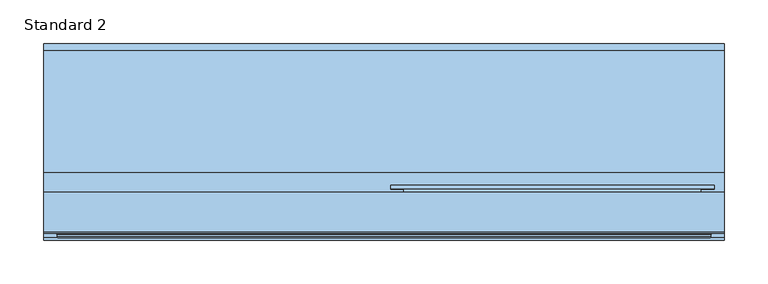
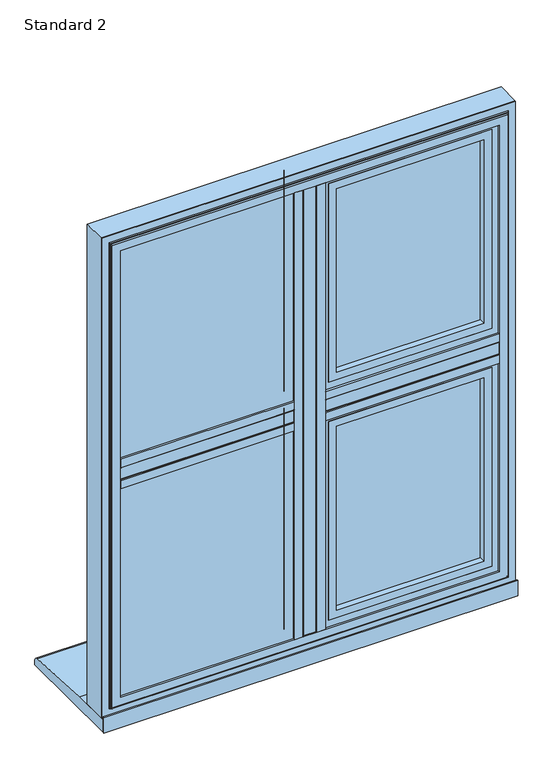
"""IFC4 building model written with IfcOpenShell, lengths in millimetres: window geometry, SMARTS_AlithermHeritage : Standard 2."""

from ifc_helpers import new_model, si_unit, point, frame, frame_2d, origin, place, context, project, spatial, polyline, circle_curve, ellipse_curve, trimmed, segment, composite_curve, outline, extrude, faceted_brep, source, transform, mapped, element, save
from ifc_brep_helpers import plane_surface, cylinder_surface, revolved_surface, advanced_brep


def standard_2_fe74481d(model_context):
    return source(origin(), model_context, "Body", "SolidModel", [
        extrude(outline(polyline([(-13.6941456, 95.2798432), (13.6941456, 95.2798432), (13.6941456, 47.279476), (-13.6941456, 47.279476), (-13.6941456, 95.2798432)])), frame((0.0, 0.0, 652.6941456), z_axis=(0.0, 0.0, 1.0), x_axis=(1.0, 0.0, 0.0)), (0.0, 0.0, 1.0), 919.6117089),
        extrude(outline(composite_curve([segment(polyline([(-29.0, 47.279476), (29.0, 47.279476), (29.0, 43.2798432), (13.0, 43.2798432)]), True, "CONTINUOUS"), segment(trimmed(circle_curve(frame_2d((13.0, 44.2798432)), 1.0), [point((13.0, 43.2798432))], [point((12.0, 44.2798432))], False, "CARTESIAN"), True, "CONTINUOUS"), segment(polyline([(12.0, 44.2798432), (12.0, 45.7798432), (-12.0, 45.7798432), (-12.0, 44.2798432)]), True, "CONTINUOUS"), segment(trimmed(circle_curve(frame_2d((-13.0, 44.2798432)), 1.0), [point((-12.0, 44.2798432))], [point((-13.0, 43.2798432))], False, "CARTESIAN"), True, "CONTINUOUS"), segment(polyline([(-13.0, 43.2798432), (-29.0, 43.2798432), (-29.0, 47.279476)]), True, "CONTINUOUS")], self_intersect=False)), frame((0.0, 0.0, 668.0), z_axis=(0.0, 0.0, 1.0), x_axis=(1.0, 0.0, 0.0)), (0.0, 0.0, 1.0), 889.0),
        extrude(outline(polyline([(-13.6941456, 95.2798432), (-13.6941456, 47.279476), (-372.3058544, 47.279476), (-372.3058544, 95.2798432), (-13.6941456, 95.2798432)])), frame((0.0, 0.0, 1098.8058544), z_axis=(0.0, 0.0, 1.0), x_axis=(1.0, 0.0, 0.0)), (0.0, 0.0, 1.0), 27.3882911),
        extrude(outline(composite_curve([segment(polyline([(47.279476, 1083.5), (43.2798432, 1083.5), (43.2798432, 1099.5)]), True, "CONTINUOUS"), segment(trimmed(circle_curve(frame_2d((44.2798432, 1099.5)), 1.0), [point((43.2798432, 1099.5))], [point((44.2798432, 1100.5))], False, "CARTESIAN"), True, "CONTINUOUS"), segment(polyline([(44.2798432, 1100.5), (45.7798432, 1100.5), (45.7798432, 1124.5), (44.2798432, 1124.5)]), True, "CONTINUOUS"), segment(trimmed(circle_curve(frame_2d((44.2798432, 1125.5)), 1.0), [point((44.2798432, 1124.5))], [point((43.2798432, 1125.5))], False, "CARTESIAN"), True, "CONTINUOUS"), segment(polyline([(43.2798432, 1125.5), (43.2798432, 1141.5), (47.279476, 1141.5), (47.279476, 1083.5)]), True, "CONTINUOUS")], self_intersect=False)), frame((-357.0, 0.0, 0.0), z_axis=(1.0, 0.0, 0.0), x_axis=(0.0, 1.0, 0.0)), (0.0, 0.0, 1.0), 328.0),
        extrude(outline(polyline([(372.3058544, 95.2798432), (372.3058544, 47.279476), (13.6941456, 47.279476), (13.6941456, 95.2798432), (372.3058544, 95.2798432)])), frame((0.0, 0.0, 1098.8058544), z_axis=(0.0, 0.0, 1.0), x_axis=(1.0, 0.0, 0.0)), (0.0, 0.0, 1.0), 27.3882911),
        extrude(outline(composite_curve([segment(polyline([(47.279476, 1083.5), (43.2798432, 1083.5), (43.2798432, 1099.5)]), True, "CONTINUOUS"), segment(trimmed(circle_curve(frame_2d((44.2798432, 1099.5)), 1.0), [point((43.2798432, 1099.5))], [point((44.2798432, 1100.5))], False, "CARTESIAN"), True, "CONTINUOUS"), segment(polyline([(44.2798432, 1100.5), (45.7798432, 1100.5), (45.7798432, 1124.5), (44.2798432, 1124.5)]), True, "CONTINUOUS"), segment(trimmed(circle_curve(frame_2d((44.2798432, 1125.5)), 1.0), [point((44.2798432, 1124.5))], [point((43.2798432, 1125.5))], False, "CARTESIAN"), True, "CONTINUOUS"), segment(polyline([(43.2798432, 1125.5), (43.2798432, 1141.5), (47.279476, 1141.5), (47.279476, 1083.5)]), True, "CONTINUOUS")], self_intersect=False)), frame((29.0, 0.0, 0.0), z_axis=(1.0, 0.0, 0.0), x_axis=(0.0, 1.0, 0.0)), (0.0, 0.0, 1.0), 328.0),
        extrude(outline(polyline([(-367.0, 75.2798432), (-19.0, 75.2798432), (-19.0, 71.2798432), (-367.0, 71.2798432), (-367.0, 75.2798432)])), frame((0.0, 0.0, 658.0), z_axis=(0.0, 0.0, 1.0), x_axis=(1.0, 0.0, 0.0)), (0.0, 0.0, 1.0), 435.5),
        extrude(outline(polyline([(-367.0, 55.2798432), (-19.0, 55.2798432), (-19.0, 51.2798432), (-367.0, 51.2798432), (-367.0, 55.2798432)])), frame((0.0, 0.0, 658.0), z_axis=(0.0, 0.0, 1.0), x_axis=(1.0, 0.0, 0.0)), (0.0, 0.0, 1.0), 435.5),
        extrude(outline(polyline([(1093.5, -367.0), (658.0, -367.0), (658.0, -19.0), (1093.5, -19.0), (1093.5, -367.0)]), holes=[polyline([(1083.5, -29.0), (668.0, -29.0), (668.0, -357.0), (1083.5, -357.0), (1083.5, -29.0)])]), frame((0.0, 55.2798432, 0.0), z_axis=(0.0, 1.0, 0.0), x_axis=(0.0, 0.0, 1.0)), (0.0, 0.0, 1.0), 16.0),
        faceted_brep([(-19.1851151, 95.2798432, 1093.3148849), (-29.0, 78.2798098, 1083.5), (-357.0, 78.2798098, 1083.5), (-366.8148849, 95.2798432, 1093.3148849), (-13.6297324, 78.2798098, 1098.8702676), (-13.6297324, 95.2798432, 1098.8702676), (-372.3702676, 95.2798432, 1098.8702676), (-372.3702676, 78.2798098, 1098.8702676), (-372.3702676, 78.2798098, 652.6297324), (-372.3702676, 95.2798432, 652.6297324), (-13.6297324, 95.2798432, 652.6297324), (-13.6297324, 78.2798098, 652.6297324), (-366.8148849, 95.2798432, 658.1851151), (-19.1851151, 95.2798432, 658.1851151), (-29.0, 78.2798098, 668.0), (-357.0, 78.2798098, 668.0)], [[[0, 1, 2, 3]], [[4, 5, 6, 7]], [[8, 9, 10, 11]], [[5, 10, 9, 6], [3, 12, 13, 0]], [[7, 8, 11, 4], [1, 14, 15, 2]], [[3, 2, 15, 12]], [[7, 6, 9, 8]], [[12, 15, 14, 13]], [[13, 14, 1, 0]], [[11, 10, 5, 4]]]),
        extrude(outline(polyline([(-367.0, 75.2798432), (-19.0, 75.2798432), (-19.0, 71.2798432), (-367.0, 71.2798432), (-367.0, 75.2798432)])), frame((0.0, 0.0, 1131.5), z_axis=(0.0, 0.0, 1.0), x_axis=(1.0, 0.0, 0.0)), (0.0, 0.0, 1.0), 435.5),
        extrude(outline(polyline([(-367.0, 55.2798432), (-19.0, 55.2798432), (-19.0, 51.2798432), (-367.0, 51.2798432), (-367.0, 55.2798432)])), frame((0.0, 0.0, 1131.5), z_axis=(0.0, 0.0, 1.0), x_axis=(1.0, 0.0, 0.0)), (0.0, 0.0, 1.0), 435.5),
        extrude(outline(polyline([(1567.0, -367.0), (1131.5, -367.0), (1131.5, -19.0), (1567.0, -19.0), (1567.0, -367.0)]), holes=[polyline([(1557.0, -29.0), (1141.5, -29.0), (1141.5, -357.0), (1557.0, -357.0), (1557.0, -29.0)])]), frame((0.0, 55.2798432, 0.0), z_axis=(0.0, 1.0, 0.0), x_axis=(0.0, 0.0, 1.0)), (0.0, 0.0, 1.0), 16.0),
        faceted_brep([(-19.1851151, 95.2798432, 1566.8148849), (-29.0, 78.2798098, 1557.0), (-357.0, 78.2798098, 1557.0), (-366.8148849, 95.2798432, 1566.8148849), (-13.6297324, 78.2798098, 1572.3702676), (-13.6297324, 95.2798432, 1572.3702676), (-372.3702676, 95.2798432, 1572.3702676), (-372.3702676, 78.2798098, 1572.3702676), (-372.3702676, 78.2798098, 1126.1297324), (-372.3702676, 95.2798432, 1126.1297324), (-13.6297324, 95.2798432, 1126.1297324), (-13.6297324, 78.2798098, 1126.1297324), (-366.8148849, 95.2798432, 1131.6851151), (-19.1851151, 95.2798432, 1131.6851151), (-29.0, 78.2798098, 1141.5), (-357.0, 78.2798098, 1141.5)], [[[0, 1, 2, 3]], [[4, 5, 6, 7]], [[8, 9, 10, 11]], [[5, 10, 9, 6], [3, 12, 13, 0]], [[7, 8, 11, 4], [1, 14, 15, 2]], [[3, 2, 15, 12]], [[7, 6, 9, 8]], [[12, 15, 14, 13]], [[13, 14, 1, 0]], [[11, 10, 5, 4]]]),
        extrude(outline(polyline([(42.5, 89.2798432), (343.5, 89.2798432), (343.5, 85.2798432), (42.5, 85.2798432), (42.5, 89.2798432)])), frame((0.0, 0.0, 681.5), z_axis=(0.0, 0.0, 1.0), x_axis=(1.0, 0.0, 0.0)), (0.0, 0.0, 1.0), 388.5),
        extrude(outline(polyline([(42.5, 69.2798432), (343.5, 69.2798432), (343.5, 65.2798432), (42.5, 65.2798432), (42.5, 69.2798432)])), frame((0.0, 0.0, 681.5), z_axis=(0.0, 0.0, 1.0), x_axis=(1.0, 0.0, 0.0)), (0.0, 0.0, 1.0), 388.5),
        extrude(outline(polyline([(1070.0, 42.5), (681.5, 42.5), (681.5, 343.5), (1070.0, 343.5), (1070.0, 42.5)]), holes=[polyline([(1060.0, 333.5), (691.5, 333.5), (691.5, 52.5), (1060.0, 52.5), (1060.0, 333.5)])]), frame((0.0, 69.2798432, 0.0), z_axis=(0.0, 1.0, 0.0), x_axis=(0.0, 0.0, 1.0)), (0.0, 0.0, 1.0), 16.0),
        extrude(outline(polyline([(1073.5052956, 38.9947044), (677.9947044, 38.9947044), (677.9947044, 347.0052956), (1073.5052956, 347.0052956), (1073.5052956, 38.9947044)]), holes=[polyline([(1058.5, 332.0), (693.0, 332.0), (693.0, 54.0), (1058.5, 54.0), (1058.5, 332.0)])]), frame((0.0, 51.2798432, 0.0), z_axis=(0.0, 1.0, 0.0), x_axis=(0.0, 0.0, 1.0)), (0.0, 0.0, 1.0), 11.3),
        extrude(outline(polyline([(662.3548042, 23.3548042), (662.3548042, 362.6451958), (1089.1451958, 362.6451958), (1089.1451958, 23.3548042), (662.3548042, 23.3548042)]), holes=[polyline([(1073.5, 39.0), (1073.5, 347.0), (678.0, 347.0), (678.0, 39.0), (1073.5, 39.0)])]), frame((0.0, 51.2798432, 0.0), z_axis=(0.0, 1.0, 0.0), x_axis=(0.0, 0.0, 1.0)), (0.0, 0.0, 1.0), 41.6),
        advanced_brep(
        [(54.0, 98.0798432, 1058.5), (54.0, 92.8798432, 1058.5), (54.0, 92.8798432, 693.0), (54.0, 98.0798432, 693.0), (332.0, 92.8798432, 693.0), (332.0, 98.0798432, 693.0), (332.0, 92.8798432, 1058.5), (332.0, 98.0798432, 1058.5), (7.8, 99.2798432, 1104.7), (7.8, 103.2798432, 1104.7), (7.8, 103.2798432, 646.8), (7.8, 99.2798432, 646.8), (378.2, 103.2798432, 646.8), (378.2, 99.2798432, 646.8), (378.2, 103.2798432, 1104.7), (378.2, 99.2798432, 1104.7), (22.8532343, 99.2798432, 1089.6467657), (363.1467657, 99.2798432, 1089.6467657), (363.1467657, 99.2798432, 661.8532343), (22.8532343, 99.2798432, 661.8532343), (36.8, 103.2798432, 675.8), (349.2, 103.2798432, 675.8), (349.2, 103.2798432, 1075.7), (36.8, 103.2798432, 1075.7), (22.8532343, 92.8798432, 1089.6467657), (22.8532343, 92.8798432, 661.8532343), (363.1467657, 92.8798432, 661.8532343), (363.1467657, 92.8798432, 1089.6467657), (38.8, 101.2798432, 1073.7), (38.8, 100.0798432, 1073.7), (38.8, 100.0798432, 677.8), (38.8, 101.2798432, 677.8), (40.8, 98.0798432, 1071.7), (40.8, 98.0798432, 679.8), (347.2, 100.0798432, 677.8), (347.2, 101.2798432, 677.8), (345.2, 98.0798432, 679.8), (347.2, 100.0798432, 1073.7), (347.2, 101.2798432, 1073.7), (345.2, 98.0798432, 1071.7)],
        [
            (0, 1),
            (1, 2),
            (2, 3),
            (3, 0),
            (2, 4),
            (4, 5),
            (5, 3),
            (4, 6),
            (6, 7),
            (7, 5),
            (6, 1),
            (0, 7),
            (8, 9),
            (9, 10),
            (10, 11),
            (11, 8),
            (10, 12),
            (12, 13),
            (13, 11),
            (12, 14),
            (14, 15),
            (15, 13),
            (15, 8),
            (16, 17),
            (17, 18),
            (18, 19),
            (19, 16),
            (14, 9),
            (20, 21),
            (21, 22),
            (22, 23),
            (23, 20),
            (24, 16),
            (19, 25),
            (25, 24),
            (18, 26),
            (26, 25),
            (17, 27),
            (27, 26),
            (27, 24),
            (28, 29),
            (29, 30),
            (30, 31),
            (31, 28),
            (29, 32, ellipse_curve(frame((40.8, 100.0798432, 1071.7), z_axis=(0.7071067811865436, 0.0, 0.7071067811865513), x_axis=(0.7071067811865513, 0.0, -0.7071067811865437)), 2.8284271, 2.0)),
            (32, 33),
            (33, 30, ellipse_curve(frame((40.8, 100.0798432, 679.8), z_axis=(0.7071067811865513, 0.0, -0.7071067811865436), x_axis=(-0.7071067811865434, 0.0, -0.7071067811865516)), 2.8284271, 2.0)),
            (30, 34),
            (34, 35),
            (35, 31),
            (33, 36),
            (36, 34, ellipse_curve(frame((345.2, 100.0798432, 679.8), z_axis=(0.7071067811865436, 0.0, 0.7071067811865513), x_axis=(0.7071067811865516, 0.0, -0.7071067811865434)), 2.8284271, 2.0)),
            (34, 37),
            (37, 38),
            (38, 35),
            (36, 39),
            (39, 37, ellipse_curve(frame((345.2, 100.0798432, 1071.7), z_axis=(-0.7071067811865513, 0.0, 0.7071067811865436), x_axis=(0.7071067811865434, 0.0, 0.7071067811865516)), 2.8284271, 2.0)),
            (32, 39),
            (37, 29),
            (28, 38),
            (23, 28, ellipse_curve(frame((36.8, 101.2798432, 1075.7), z_axis=(-0.7071067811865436, 0.0, -0.7071067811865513), x_axis=(-0.7071067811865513, 0.0, 0.7071067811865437)), 2.8284271, 2.0)),
            (31, 20, ellipse_curve(frame((36.8, 101.2798432, 675.8), z_axis=(-0.7071067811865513, 0.0, 0.7071067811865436), x_axis=(0.7071067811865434, 0.0, 0.7071067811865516)), 2.8284271, 2.0)),
            (35, 21, ellipse_curve(frame((349.2, 101.2798432, 675.8), z_axis=(-0.7071067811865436, 0.0, -0.7071067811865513), x_axis=(-0.7071067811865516, 0.0, 0.7071067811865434)), 2.8284271, 2.0)),
            (38, 22, ellipse_curve(frame((349.2, 101.2798432, 1075.7), z_axis=(0.7071067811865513, 0.0, -0.7071067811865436), x_axis=(-0.7071067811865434, 0.0, -0.7071067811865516)), 2.8284271, 2.0)),
        ],
        [
            plane_surface(frame((54.0, 92.8798432, 1058.5), z_axis=(1.0, 0.0, 0.0), x_axis=(0.0, 0.0, -1.0))),
            plane_surface(frame((54.0, 92.8798432, 693.0), z_axis=(0.0, 0.0, 1.0), x_axis=(1.0, 0.0, 0.0))),
            plane_surface(frame((332.0, 92.8798432, 693.0), z_axis=(-1.0, 0.0, 0.0), x_axis=(0.0, 0.0, 1.0))),
            plane_surface(frame((332.0, 92.8798432, 1058.5), z_axis=(0.0, 0.0, -1.0), x_axis=(-1.0, 0.0, 0.0))),
            plane_surface(frame((7.8, 103.2798432, 1104.7), z_axis=(-1.0, 0.0, 0.0), x_axis=(0.0, 0.0, -1.0))),
            plane_surface(frame((7.8, 103.2798432, 646.8), z_axis=(0.0, 0.0, -1.0), x_axis=(1.0, 0.0, 0.0))),
            plane_surface(frame((378.2, 103.2798432, 646.8), z_axis=(1.0, 0.0, 0.0), x_axis=(0.0, 0.0, 1.0))),
            plane_surface(frame((378.2, 99.2798432, 1104.7), z_axis=(0.0, -1.0, 0.0), x_axis=(-1.0, 0.0, 0.0))),
            plane_surface(frame((378.2, 103.2798432, 1104.7), z_axis=(0.0, 0.0, 1.0), x_axis=(-1.0, 0.0, 0.0))),
            plane_surface(frame((349.2, 103.2798432, 1075.7), z_axis=(0.0, 1.0, 0.0), x_axis=(-1.0, 0.0, 0.0))),
            plane_surface(frame((22.8532343, 99.2798432, 1089.6467657), z_axis=(-1.0, 0.0, 0.0), x_axis=(0.0, 0.0, -1.0))),
            plane_surface(frame((22.8532343, 99.2798432, 661.8532343), z_axis=(0.0, 0.0, -1.0), x_axis=(1.0, 0.0, 0.0))),
            plane_surface(frame((363.1467657, 99.2798432, 661.8532343), z_axis=(1.0, 0.0, 0.0), x_axis=(0.0, 0.0, 1.0))),
            plane_surface(frame((363.1467657, 92.8798432, 1089.6467657), z_axis=(0.0, -1.0, 0.0), x_axis=(-1.0, 0.0, 0.0))),
            plane_surface(frame((363.1467657, 99.2798432, 1089.6467657), z_axis=(0.0, 0.0, 1.0), x_axis=(-1.0, 0.0, 0.0))),
            plane_surface(frame((38.8, 100.0798432, 1073.7), z_axis=(1.0, 0.0, 0.0), x_axis=(0.0, 0.0, -1.0))),
            revolved_surface(polyline([(38.8, 100.0798432, 677.8), (38.8, 100.0798432, 1073.7)]), (40.8, 100.0798432, 1083.5), (0.0, 0.0, -1.0)),
            plane_surface(frame((38.8, 100.0798432, 677.8), z_axis=(0.0, 0.0, 1.0), x_axis=(1.0, 0.0, 0.0))),
            revolved_surface(polyline([(347.2, 100.0798432, 677.8), (38.8, 100.0798432, 677.8)]), (29.0, 100.0798432, 679.8), (1.0, 0.0, 0.0)),
            plane_surface(frame((347.2, 100.0798432, 677.8), z_axis=(-1.0, 0.0, 0.0), x_axis=(0.0, 0.0, 1.0))),
            revolved_surface(polyline([(347.2, 100.0798432, 1073.7), (347.2, 100.0798432, 677.8)]), (345.2, 100.0798432, 668.0), (0.0, 0.0, 1.0)),
            plane_surface(frame((332.0, 98.0798432, 1058.5), z_axis=(0.0, 1.0, 0.0), x_axis=(-1.0, 0.0, 0.0))),
            plane_surface(frame((347.2, 100.0798432, 1073.7), z_axis=(0.0, 0.0, -1.0), x_axis=(-1.0, 0.0, 0.0))),
            revolved_surface(polyline([(38.80000000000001, 100.0798432, 1073.7), (347.2, 100.0798432, 1073.7)]), (357.0, 100.0798432, 1071.7), (-1.0, 0.0, 0.0)),
            cylinder_surface(frame((36.8, 101.2798432, 1083.5), z_axis=(0.0, 0.0, 1.0), x_axis=(-1.0, 0.0, 0.0)), 2.0),
            cylinder_surface(frame((29.0, 101.2798432, 675.8), z_axis=(-1.0, 0.0, 0.0), x_axis=(0.0, 0.0, -1.0)), 2.0),
            cylinder_surface(frame((349.2, 101.2798432, 668.0), z_axis=(0.0, 0.0, -1.0), x_axis=(1.0, 0.0, 0.0)), 2.0),
            cylinder_surface(frame((357.0, 101.2798432, 1075.7), z_axis=(1.0, 0.0, 0.0), x_axis=(0.0, 0.0, 1.0)), 2.0),
        ],
        [
            (0, [[1, 2, 3, 4]]),
            (1, [[-3, 5, 6, 7]]),
            (2, [[-6, 8, 9, 10]]),
            (3, [[-9, 11, -1, 12]]),
            (4, [[13, 14, 15, 16]]),
            (5, [[-15, 17, 18, 19]]),
            (6, [[-18, 20, 21, 22]]),
            (7, [[-19, -22, 23, -16], [24, 25, 26, 27]]),
            (8, [[-21, 28, -13, -23]]),
            (9, [[-28, -20, -17, -14], [29, 30, 31, 32]]),
            (10, [[33, -27, 34, 35]]),
            (11, [[-34, -26, 36, 37]]),
            (12, [[-36, -25, 38, 39]]),
            (13, [[-37, -39, 40, -35], [-11, -8, -5, -2]]),
            (14, [[-38, -24, -33, -40]]),
            (15, [[41, 42, 43, 44]]),
            (16, [[45, 46, 47, -42]]),
            (17, [[-43, 48, 49, 50]]),
            (18, [[-47, 51, 52, -48]]),
            (19, [[-49, 53, 54, 55]]),
            (20, [[-52, 56, 57, -53]]),
            (21, [[58, -56, -51, -46], [-7, -10, -12, -4]]),
            (22, [[-54, 59, -41, 60]]),
            (23, [[-57, -58, -45, -59]]),
            (24, [[61, -44, 62, -32]]),
            (25, [[-62, -50, 63, -29]]),
            (26, [[-63, -55, 64, -30]]),
            (27, [[-64, -60, -61, -31]]),
        ],
    ),
        extrude(outline(polyline([(1590.0, 390.0), (1590.0, -390.0), (635.0, -390.0), (635.0, 390.0), (1590.0, 390.0)]), holes=[polyline([(652.7000182, 372.2999818), (652.7000182, -372.2999818), (1572.2999818, -372.2999818), (1572.2999818, 372.2999818), (652.7000182, 372.2999818)])]), frame((0.0, 50.279857, 0.0), z_axis=(0.0, 1.0, 0.0), x_axis=(0.0, 0.0, 1.0)), (0.0, 0.0, 1.0), 44.9999962),
        advanced_brep(
        [(357.0, 43.2798432, 1557.0), (357.0, 47.2798432, 1557.0), (357.0, 47.2798432, 668.0), (357.0, 43.2798432, 668.0), (390.0, 50.279857, 1590.0), (390.0, 48.279857, 1590.0), (390.0, 48.279857, 635.0), (390.0, 50.279857, 635.0), (372.4999818, 43.2798432, 1572.4999818), (-372.4999818, 43.2798432, 1572.4999818), (-372.4999818, 43.2798432, 652.5000182), (372.4999818, 43.2798432, 652.5000182), (-357.0, 43.2798432, 668.0), (-357.0, 43.2798432, 1557.0), (-390.0, 50.279857, 1590.0), (-390.0, 48.279857, 1590.0), (-390.0, 50.279857, 635.0), (372.2999818, 50.279857, 1572.2999818), (-372.2999818, 50.279857, 1572.2999818), (-372.2999818, 50.279857, 652.7000182), (372.2999818, 50.279857, 652.7000182), (-357.0, 47.2798432, 1557.0), (-357.0, 47.2798432, 668.0), (-390.0, 48.279857, 635.0), (-372.2999818, 47.2798432, 1572.2999818), (372.2999818, 47.2798432, 1572.2999818), (372.2999818, 47.2798432, 652.7000182), (374.4999818, 46.779857, 650.5000182), (374.4999818, 45.2798432, 650.5000182), (-374.4999818, 45.2798432, 650.5000182), (-374.4999818, 46.779857, 650.5000182), (374.4999818, 46.779857, 1574.4999818), (374.4999818, 45.2798432, 1574.4999818), (-372.2999818, 47.2798432, 652.7000182), (-374.4999818, 45.2798432, 1574.4999818), (-374.4999818, 46.779857, 1574.4999818), (375.9999818, 48.279857, 1575.9999818), (375.9999818, 48.279857, 649.0000182), (-375.9999818, 48.279857, 649.0000182), (-375.9999818, 48.279857, 1575.9999818)],
        [
            (0, 1),
            (1, 2),
            (2, 3),
            (3, 0),
            (4, 5),
            (5, 6),
            (6, 7),
            (7, 4),
            (8, 9),
            (9, 10),
            (10, 11),
            (11, 8),
            (3, 12),
            (12, 13),
            (13, 0),
            (14, 15),
            (15, 5),
            (4, 14),
            (7, 16),
            (16, 14),
            (17, 18),
            (18, 19),
            (19, 20),
            (20, 17),
            (13, 21),
            (21, 1),
            (2, 22),
            (22, 12),
            (22, 21),
            (6, 23),
            (23, 16),
            (23, 15),
            (24, 18),
            (17, 25),
            (25, 24),
            (20, 26),
            (26, 25),
            (27, 28),
            (28, 29),
            (29, 30),
            (30, 27),
            (31, 32),
            (32, 28),
            (27, 31),
            (19, 33),
            (33, 26),
            (24, 33),
            (29, 34),
            (34, 35),
            (35, 30),
            (34, 32),
            (31, 35),
            (36, 31, ellipse_curve(frame((375.9999818, 46.779857, 1575.9999818), z_axis=(-0.7071067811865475, 0.0, 0.7071067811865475), x_axis=(-0.7071067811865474, 0.0, -0.7071067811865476)), 2.1213203, 1.5)),
            (27, 37, ellipse_curve(frame((375.9999818, 46.779857, 649.0000182), z_axis=(-0.7071067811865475, 0.0, -0.7071067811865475), x_axis=(0.7071067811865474, 0.0, -0.7071067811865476)), 2.1213203, 1.5)),
            (37, 36),
            (30, 38, ellipse_curve(frame((-375.9999818, 46.779857, 649.0000182), z_axis=(-0.7071067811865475, 0.0, 0.7071067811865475), x_axis=(-0.7071067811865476, 0.0, -0.7071067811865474)), 2.1213203, 1.5)),
            (38, 37),
            (35, 39, ellipse_curve(frame((-375.9999818, 46.779857, 1575.9999818), z_axis=(0.7071067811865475, 0.0, 0.7071067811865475), x_axis=(-0.7071067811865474, 0.0, 0.7071067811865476)), 2.1213203, 1.5)),
            (39, 38),
            (36, 39),
            (32, 8, ellipse_curve(frame((372.4999818, 45.2798432, 1572.4999818), z_axis=(0.7071067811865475, 0.0, -0.7071067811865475), x_axis=(0.7071067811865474, 0.0, 0.7071067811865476)), 2.8284271, 2.0)),
            (11, 28, ellipse_curve(frame((372.4999818, 45.2798432, 652.5000182), z_axis=(0.7071067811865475, 0.0, 0.7071067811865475), x_axis=(-0.7071067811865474, 0.0, 0.7071067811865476)), 2.8284271, 2.0)),
            (10, 29, ellipse_curve(frame((-372.4999818, 45.2798432, 652.5000182), z_axis=(0.7071067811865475, 0.0, -0.7071067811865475), x_axis=(0.7071067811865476, 0.0, 0.7071067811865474)), 2.8284271, 2.0)),
            (9, 34, ellipse_curve(frame((-372.4999818, 45.2798432, 1572.4999818), z_axis=(-0.7071067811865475, 0.0, -0.7071067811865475), x_axis=(0.7071067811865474, 0.0, -0.7071067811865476)), 2.8284271, 2.0)),
        ],
        [
            plane_surface(frame((357.0, 47.2798432, 1557.0), z_axis=(-1.0, 0.0, 0.0), x_axis=(0.0, 0.0, -1.0))),
            plane_surface(frame((390.0, 48.279857, 1590.0), z_axis=(1.0, 0.0, 0.0), x_axis=(0.0, 0.0, -1.0))),
            plane_surface(frame((-357.0, 43.2798432, 1557.0), z_axis=(0.0, -1.0, 0.0), x_axis=(1.0, 0.0, 0.0))),
            plane_surface(frame((-390.0, 48.279857, 1590.0), z_axis=(0.0, 0.0, 1.0), x_axis=(1.0, 0.0, 0.0))),
            plane_surface(frame((-390.0, 50.279857, 1590.0), z_axis=(0.0, 1.0, 0.0), x_axis=(1.0, 0.0, 0.0))),
            plane_surface(frame((-357.0, 47.2798432, 1557.0), z_axis=(0.0, 0.0, -1.0), x_axis=(1.0, 0.0, 0.0))),
            plane_surface(frame((357.0, 47.2798432, 668.0), z_axis=(0.0, 0.0, 1.0), x_axis=(-1.0, 0.0, 0.0))),
            plane_surface(frame((-357.0, 47.2798432, 668.0), z_axis=(1.0, 0.0, 0.0), x_axis=(0.0, 0.0, 1.0))),
            plane_surface(frame((390.0, 48.279857, 635.0), z_axis=(0.0, 0.0, -1.0), x_axis=(-1.0, 0.0, 0.0))),
            plane_surface(frame((-390.0, 48.279857, 635.0), z_axis=(-1.0, 0.0, 0.0), x_axis=(0.0, 0.0, 1.0))),
            plane_surface(frame((-372.2999818, 50.279857, 1572.2999818), z_axis=(0.0, 0.0, -1.0), x_axis=(1.0, 0.0, 0.0))),
            plane_surface(frame((372.2999818, 50.279857, 1572.2999818), z_axis=(-1.0, 0.0, 0.0), x_axis=(0.0, 0.0, -1.0))),
            plane_surface(frame((374.4999818, 45.2798432, 650.5000182), z_axis=(0.0, 0.0, -1.0), x_axis=(-1.0, 0.0, 0.0))),
            plane_surface(frame((374.4999818, 45.2798432, 1574.4999818), z_axis=(1.0, 0.0, 0.0), x_axis=(0.0, 0.0, -1.0))),
            plane_surface(frame((372.2999818, 50.279857, 652.7000182), z_axis=(0.0, 0.0, 1.0), x_axis=(-1.0, 0.0, 0.0))),
            plane_surface(frame((-372.2999818, 50.279857, 652.7000182), z_axis=(1.0, 0.0, 0.0), x_axis=(0.0, 0.0, 1.0))),
            plane_surface(frame((-374.4999818, 45.2798432, 650.5000182), z_axis=(-1.0, 0.0, 0.0), x_axis=(0.0, 0.0, 1.0))),
            plane_surface(frame((-372.2999818, 47.2798432, 1572.2999818), z_axis=(0.0, 1.0, 0.0), x_axis=(1.0, 0.0, 0.0))),
            plane_surface(frame((-374.4999818, 45.2798432, 1574.4999818), z_axis=(0.0, 0.0, 1.0), x_axis=(1.0, 0.0, 0.0))),
            revolved_surface(polyline([(374.4999818, 46.779857, 647.5000182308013), (374.4999818, 46.779857, 1577.4999817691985)]), (375.9999818, 46.779857, 1590.0), (0.0, 0.0, -1.0)),
            revolved_surface(polyline([(-377.4999817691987, 46.779857, 650.5000182), (377.49998176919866, 46.779857, 650.5000182)]), (390.0, 46.779857, 649.0000182), (-1.0, 0.0, 0.0)),
            revolved_surface(polyline([(-374.4999818, 46.779857, 1577.4999817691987), (-374.4999818, 46.779857, 647.5000182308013)]), (-375.9999818, 46.779857, 635.0), (0.0, 0.0, 1.0)),
            revolved_surface(polyline([(377.4999817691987, 46.779857, 1574.4999818), (-377.49998176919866, 46.779857, 1574.4999818)]), (-390.0, 46.779857, 1575.9999818), (1.0, 0.0, 0.0)),
            plane_surface(frame((-375.9999818, 48.279857, 1575.9999818), z_axis=(0.0, -1.0, 0.0), x_axis=(1.0, 0.0, 0.0))),
            cylinder_surface(frame((372.4999818, 45.2798432, 1590.0), z_axis=(0.0, 0.0, 1.0), x_axis=(-1.0, 0.0, 0.0)), 2.0),
            cylinder_surface(frame((390.0, 45.2798432, 652.5000182), z_axis=(1.0, 0.0, 0.0), x_axis=(0.0, 0.0, 1.0)), 2.0),
            cylinder_surface(frame((-372.4999818, 45.2798432, 635.0), z_axis=(0.0, 0.0, -1.0), x_axis=(1.0, 0.0, 0.0)), 2.0),
            cylinder_surface(frame((-390.0, 45.2798432, 1572.4999818), z_axis=(-1.0, 0.0, 0.0), x_axis=(0.0, 0.0, -1.0)), 2.0),
        ],
        [
            (0, [[1, 2, 3, 4]]),
            (1, [[5, 6, 7, 8]]),
            (2, [[9, 10, 11, 12], [13, 14, 15, -4]]),
            (3, [[16, 17, -5, 18]]),
            (4, [[19, 20, -18, -8], [21, 22, 23, 24]]),
            (5, [[25, 26, -1, -15]]),
            (6, [[-3, 27, 28, -13]]),
            (7, [[-28, 29, -25, -14]]),
            (8, [[-7, 30, 31, -19]]),
            (9, [[-31, 32, -16, -20]]),
            (10, [[33, -21, 34, 35]]),
            (11, [[-34, -24, 36, 37]]),
            (12, [[38, 39, 40, 41]]),
            (13, [[42, 43, -38, 44]]),
            (14, [[-36, -23, 45, 46]]),
            (15, [[-45, -22, -33, 47]]),
            (16, [[-40, 48, 49, 50]]),
            (17, [[-46, -47, -35, -37], [-26, -29, -27, -2]]),
            (18, [[-49, 51, -42, 52]]),
            (19, [[53, -44, 54, 55]]),
            (20, [[-54, -41, 56, 57]]),
            (21, [[-56, -50, 58, 59]]),
            (22, [[-58, -52, -53, 60]]),
            (23, [[-17, -32, -30, -6], [-57, -59, -60, -55]]),
            (24, [[61, -12, 62, -43]]),
            (25, [[-62, -11, 63, -39]]),
            (26, [[-63, -10, 64, -48]]),
            (27, [[-64, -9, -61, -51]]),
        ],
    ),
        extrude(outline(polyline([(42.5, 89.2798432), (343.5, 89.2798432), (343.5, 85.2798432), (42.5, 85.2798432), (42.5, 89.2798432)])), frame((0.0, 0.0, 1155.0), z_axis=(0.0, 0.0, 1.0), x_axis=(1.0, 0.0, 0.0)), (0.0, 0.0, 1.0), 388.5),
        extrude(outline(polyline([(42.5, 69.2798432), (343.5, 69.2798432), (343.5, 65.2798432), (42.5, 65.2798432), (42.5, 69.2798432)])), frame((0.0, 0.0, 1155.0), z_axis=(0.0, 0.0, 1.0), x_axis=(1.0, 0.0, 0.0)), (0.0, 0.0, 1.0), 388.5),
        extrude(outline(polyline([(1543.5, 42.5), (1155.0, 42.5), (1155.0, 343.5), (1543.5, 343.5), (1543.5, 42.5)]), holes=[polyline([(1533.5, 333.5), (1165.0, 333.5), (1165.0, 52.5), (1533.5, 52.5), (1533.5, 333.5)])]), frame((0.0, 69.2798432, 0.0), z_axis=(0.0, 1.0, 0.0), x_axis=(0.0, 0.0, 1.0)), (0.0, 0.0, 1.0), 16.0),
        extrude(outline(polyline([(1547.0052956, 38.9947044), (1151.4947044, 38.9947044), (1151.4947044, 347.0052956), (1547.0052956, 347.0052956), (1547.0052956, 38.9947044)]), holes=[polyline([(1532.0, 332.0), (1166.5, 332.0), (1166.5, 54.0), (1532.0, 54.0), (1532.0, 332.0)])]), frame((0.0, 51.2798432, 0.0), z_axis=(0.0, 1.0, 0.0), x_axis=(0.0, 0.0, 1.0)), (0.0, 0.0, 1.0), 11.3),
        extrude(outline(polyline([(1135.8548042, 23.3548042), (1135.8548042, 362.6451958), (1562.6451958, 362.6451958), (1562.6451958, 23.3548042), (1135.8548042, 23.3548042)]), holes=[polyline([(1547.0, 39.0), (1547.0, 347.0), (1151.5, 347.0), (1151.5, 39.0), (1547.0, 39.0)])]), frame((0.0, 51.2798432, 0.0), z_axis=(0.0, 1.0, 0.0), x_axis=(0.0, 0.0, 1.0)), (0.0, 0.0, 1.0), 41.6),
        advanced_brep(
        [(54.0, 98.0798432, 1532.0), (54.0, 92.8798432, 1532.0), (54.0, 92.8798432, 1166.5), (54.0, 98.0798432, 1166.5), (332.0, 92.8798432, 1166.5), (332.0, 98.0798432, 1166.5), (332.0, 92.8798432, 1532.0), (332.0, 98.0798432, 1532.0), (7.8, 99.2798432, 1578.2), (7.8, 103.2798432, 1578.2), (7.8, 103.2798432, 1120.3), (7.8, 99.2798432, 1120.3), (378.2, 103.2798432, 1120.3), (378.2, 99.2798432, 1120.3), (378.2, 103.2798432, 1578.2), (378.2, 99.2798432, 1578.2), (22.8532343, 99.2798432, 1563.1467657), (363.1467657, 99.2798432, 1563.1467657), (363.1467657, 99.2798432, 1135.3532343), (22.8532343, 99.2798432, 1135.3532343), (36.8, 103.2798432, 1149.3), (349.2, 103.2798432, 1149.3), (349.2, 103.2798432, 1549.2), (36.8, 103.2798432, 1549.2), (22.8532343, 92.8798432, 1563.1467657), (22.8532343, 92.8798432, 1135.3532343), (363.1467657, 92.8798432, 1135.3532343), (363.1467657, 92.8798432, 1563.1467657), (38.8, 101.2798432, 1547.2), (38.8, 100.0798432, 1547.2), (38.8, 100.0798432, 1151.3), (38.8, 101.2798432, 1151.3), (40.8, 98.0798432, 1545.2), (40.8, 98.0798432, 1153.3), (347.2, 100.0798432, 1151.3), (347.2, 101.2798432, 1151.3), (345.2, 98.0798432, 1153.3), (347.2, 100.0798432, 1547.2), (347.2, 101.2798432, 1547.2), (345.2, 98.0798432, 1545.2)],
        [
            (0, 1),
            (1, 2),
            (2, 3),
            (3, 0),
            (2, 4),
            (4, 5),
            (5, 3),
            (4, 6),
            (6, 7),
            (7, 5),
            (6, 1),
            (0, 7),
            (8, 9),
            (9, 10),
            (10, 11),
            (11, 8),
            (10, 12),
            (12, 13),
            (13, 11),
            (12, 14),
            (14, 15),
            (15, 13),
            (15, 8),
            (16, 17),
            (17, 18),
            (18, 19),
            (19, 16),
            (14, 9),
            (20, 21),
            (21, 22),
            (22, 23),
            (23, 20),
            (24, 16),
            (19, 25),
            (25, 24),
            (18, 26),
            (26, 25),
            (17, 27),
            (27, 26),
            (27, 24),
            (28, 29),
            (29, 30),
            (30, 31),
            (31, 28),
            (29, 32, ellipse_curve(frame((40.8, 100.0798432, 1545.2), z_axis=(0.7071067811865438, 0.0, 0.7071067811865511), x_axis=(0.707106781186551, 0.0, -0.7071067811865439)), 2.8284271, 2.0)),
            (32, 33),
            (33, 30, ellipse_curve(frame((40.8, 100.0798432, 1153.3), z_axis=(0.7071067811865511, 0.0, -0.7071067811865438), x_axis=(-0.7071067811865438, 0.0, -0.7071067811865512)), 2.8284271, 2.0)),
            (30, 34),
            (34, 35),
            (35, 31),
            (33, 36),
            (36, 34, ellipse_curve(frame((345.2, 100.0798432, 1153.3), z_axis=(0.7071067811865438, 0.0, 0.7071067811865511), x_axis=(0.7071067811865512, 0.0, -0.7071067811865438)), 2.8284271, 2.0)),
            (34, 37),
            (37, 38),
            (38, 35),
            (36, 39),
            (39, 37, ellipse_curve(frame((345.2, 100.0798432, 1545.2), z_axis=(-0.7071067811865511, 0.0, 0.7071067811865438), x_axis=(0.7071067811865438, 0.0, 0.7071067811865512)), 2.8284271, 2.0)),
            (32, 39),
            (37, 29),
            (28, 38),
            (23, 28, ellipse_curve(frame((36.8, 101.2798432, 1549.2), z_axis=(-0.7071067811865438, 0.0, -0.7071067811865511), x_axis=(-0.707106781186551, 0.0, 0.7071067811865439)), 2.8284271, 2.0)),
            (31, 20, ellipse_curve(frame((36.8, 101.2798432, 1149.3), z_axis=(-0.7071067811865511, 0.0, 0.7071067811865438), x_axis=(0.7071067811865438, 0.0, 0.7071067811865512)), 2.8284271, 2.0)),
            (35, 21, ellipse_curve(frame((349.2, 101.2798432, 1149.3), z_axis=(-0.7071067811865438, 0.0, -0.7071067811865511), x_axis=(-0.7071067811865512, 0.0, 0.7071067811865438)), 2.8284271, 2.0)),
            (38, 22, ellipse_curve(frame((349.2, 101.2798432, 1549.2), z_axis=(0.7071067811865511, 0.0, -0.7071067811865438), x_axis=(-0.7071067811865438, 0.0, -0.7071067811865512)), 2.8284271, 2.0)),
        ],
        [
            plane_surface(frame((54.0, 92.8798432, 1532.0), z_axis=(1.0, 0.0, 0.0), x_axis=(0.0, 0.0, -1.0))),
            plane_surface(frame((54.0, 92.8798432, 1166.5), z_axis=(0.0, 0.0, 1.0), x_axis=(1.0, 0.0, 0.0))),
            plane_surface(frame((332.0, 92.8798432, 1166.5), z_axis=(-1.0, 0.0, 0.0), x_axis=(0.0, 0.0, 1.0))),
            plane_surface(frame((332.0, 92.8798432, 1532.0), z_axis=(0.0, 0.0, -1.0), x_axis=(-1.0, 0.0, 0.0))),
            plane_surface(frame((7.8, 103.2798432, 1578.2), z_axis=(-1.0, 0.0, 0.0), x_axis=(0.0, 0.0, -1.0))),
            plane_surface(frame((7.8, 103.2798432, 1120.3), z_axis=(0.0, 0.0, -1.0), x_axis=(1.0, 0.0, 0.0))),
            plane_surface(frame((378.2, 103.2798432, 1120.3), z_axis=(1.0, 0.0, 0.0), x_axis=(0.0, 0.0, 1.0))),
            plane_surface(frame((378.2, 99.2798432, 1578.2), z_axis=(0.0, -1.0, 0.0), x_axis=(-1.0, 0.0, 0.0))),
            plane_surface(frame((378.2, 103.2798432, 1578.2), z_axis=(0.0, 0.0, 1.0), x_axis=(-1.0, 0.0, 0.0))),
            plane_surface(frame((349.2, 103.2798432, 1549.2), z_axis=(0.0, 1.0, 0.0), x_axis=(-1.0, 0.0, 0.0))),
            plane_surface(frame((22.8532343, 99.2798432, 1563.1467657), z_axis=(-1.0, 0.0, 0.0), x_axis=(0.0, 0.0, -1.0))),
            plane_surface(frame((22.8532343, 99.2798432, 1135.3532343), z_axis=(0.0, 0.0, -1.0), x_axis=(1.0, 0.0, 0.0))),
            plane_surface(frame((363.1467657, 99.2798432, 1135.3532343), z_axis=(1.0, 0.0, 0.0), x_axis=(0.0, 0.0, 1.0))),
            plane_surface(frame((363.1467657, 92.8798432, 1563.1467657), z_axis=(0.0, -1.0, 0.0), x_axis=(-1.0, 0.0, 0.0))),
            plane_surface(frame((363.1467657, 99.2798432, 1563.1467657), z_axis=(0.0, 0.0, 1.0), x_axis=(-1.0, 0.0, 0.0))),
            plane_surface(frame((38.8, 100.0798432, 1547.2), z_axis=(1.0, 0.0, 0.0), x_axis=(0.0, 0.0, -1.0))),
            revolved_surface(polyline([(38.8, 100.0798432, 1151.3), (38.8, 100.0798432, 1547.2)]), (40.8, 100.0798432, 1557.0), (0.0, 0.0, -1.0)),
            plane_surface(frame((38.8, 100.0798432, 1151.3), z_axis=(0.0, 0.0, 1.0), x_axis=(1.0, 0.0, 0.0))),
            revolved_surface(polyline([(347.2, 100.0798432, 1151.3), (38.8, 100.0798432, 1151.3)]), (29.0, 100.0798432, 1153.3), (1.0, 0.0, 0.0)),
            plane_surface(frame((347.2, 100.0798432, 1151.3), z_axis=(-1.0, 0.0, 0.0), x_axis=(0.0, 0.0, 1.0))),
            revolved_surface(polyline([(347.2, 100.0798432, 1547.2), (347.2, 100.0798432, 1151.3)]), (345.2, 100.0798432, 1141.5), (0.0, 0.0, 1.0)),
            plane_surface(frame((332.0, 98.0798432, 1532.0), z_axis=(0.0, 1.0, 0.0), x_axis=(-1.0, 0.0, 0.0))),
            plane_surface(frame((347.2, 100.0798432, 1547.2), z_axis=(0.0, 0.0, -1.0), x_axis=(-1.0, 0.0, 0.0))),
            revolved_surface(polyline([(38.80000000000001, 100.0798432, 1547.2), (347.2, 100.0798432, 1547.2)]), (357.0, 100.0798432, 1545.2), (-1.0, 0.0, 0.0)),
            cylinder_surface(frame((36.8, 101.2798432, 1557.0), z_axis=(0.0, 0.0, 1.0), x_axis=(-1.0, 0.0, 0.0)), 2.0),
            cylinder_surface(frame((29.0, 101.2798432, 1149.3), z_axis=(-1.0, 0.0, 0.0), x_axis=(0.0, 0.0, -1.0)), 2.0),
            cylinder_surface(frame((349.2, 101.2798432, 1141.5), z_axis=(0.0, 0.0, -1.0), x_axis=(1.0, 0.0, 0.0)), 2.0),
            cylinder_surface(frame((357.0, 101.2798432, 1549.2), z_axis=(1.0, 0.0, 0.0), x_axis=(0.0, 0.0, 1.0)), 2.0),
        ],
        [
            (0, [[1, 2, 3, 4]]),
            (1, [[-3, 5, 6, 7]]),
            (2, [[-6, 8, 9, 10]]),
            (3, [[-9, 11, -1, 12]]),
            (4, [[13, 14, 15, 16]]),
            (5, [[-15, 17, 18, 19]]),
            (6, [[-18, 20, 21, 22]]),
            (7, [[-19, -22, 23, -16], [24, 25, 26, 27]]),
            (8, [[-21, 28, -13, -23]]),
            (9, [[-28, -20, -17, -14], [29, 30, 31, 32]]),
            (10, [[33, -27, 34, 35]]),
            (11, [[-34, -26, 36, 37]]),
            (12, [[-36, -25, 38, 39]]),
            (13, [[-37, -39, 40, -35], [-11, -8, -5, -2]]),
            (14, [[-38, -24, -33, -40]]),
            (15, [[41, 42, 43, 44]]),
            (16, [[45, 46, 47, -42]]),
            (17, [[-43, 48, 49, 50]]),
            (18, [[-47, 51, 52, -48]]),
            (19, [[-49, 53, 54, 55]]),
            (20, [[-52, 56, 57, -53]]),
            (21, [[58, -56, -51, -46], [-7, -10, -12, -4]]),
            (22, [[-54, 59, -41, 60]]),
            (23, [[-57, -58, -45, -59]]),
            (24, [[61, -44, 62, -32]]),
            (25, [[-62, -50, 63, -29]]),
            (26, [[-63, -55, 64, -30]]),
            (27, [[-64, -60, -61, -31]]),
        ],
    ),
        extrude(outline(polyline([(390.0, 43.2798432), (390.0, 40.7798432), (-390.0, 40.7798432), (-390.0, 43.2798432), (390.0, 43.2798432)])), frame((0.0, 0.0, 610.0), z_axis=(0.0, 0.0, 1.0), x_axis=(1.0, 0.0, 0.0)), (0.0, 0.0, 1.0), 31.0),
        extrude(outline(composite_curve([segment(polyline([(265.7798432, 610.0), (43.2798432, 610.0), (43.2798432, 635.0), (118.7798432, 635.0), (258.4770891, 625.9276664)]), True, "CONTINUOUS"), segment(trimmed(circle_curve(frame_2d((257.7798432, 617.9581088)), 8.0), [point((258.4770891, 625.9276664))], [point((265.7798432, 617.9581088))], False, "CARTESIAN"), True, "CONTINUOUS"), segment(polyline([(265.7798432, 617.9581088), (265.7798432, 610.0)]), True, "CONTINUOUS")], self_intersect=False)), frame((-390.0, 0.0, 0.0), z_axis=(1.0, 0.0, 0.0), x_axis=(0.0, 1.0, 0.0)), (0.0, 0.0, 1.0), 780.0),
    ])


if __name__ == "__main__":
    model = new_model("IFC4")
    model_context = context("Model", 3, world=origin())
    ifc_project = project(units=[si_unit("LENGTHUNIT", "METRE", prefix="MILLI")], contexts=[model_context])
    site = spatial("IfcSite", under=ifc_project)
    building = spatial("IfcBuilding", under=site)
    placement = place(None, origin())
    standard_2_shape = standard_2_fe74481d(model_context)
    element("IfcWindow", 1, ObjectType="SMARTS_AlithermHeritage : Standard 2", at=placement, inside=building, context=model_context, shape_type="MappedRepresentation", body=[
        mapped(standard_2_shape, transform((0.0, 0.0, 0.0), x_axis=(1.0, 0.0, 0.0), y_axis=(0.0, 1.0, 0.0), z_axis=(0.0, 0.0, 1.0))),
    ])
    save(model, "model.ifc")
